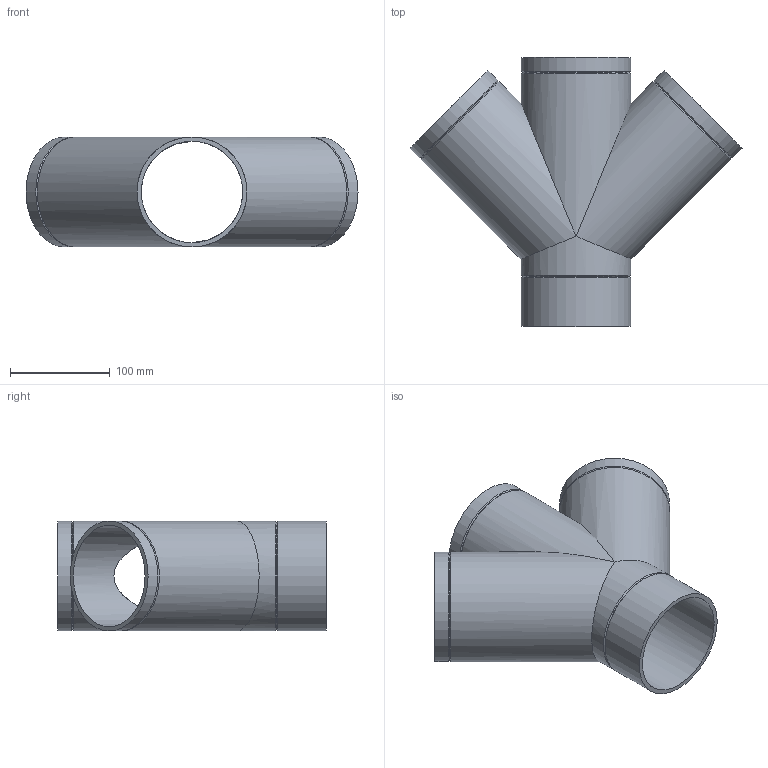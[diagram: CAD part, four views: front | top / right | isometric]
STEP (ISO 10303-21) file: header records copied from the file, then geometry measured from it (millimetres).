
FILE_DESCRIPTION(/* description */ (''),/* implementation_level */ '2;1');
FILE_NAME(/* name */ 'Z:\Geberit\Export\NewStep\367235.stp',/* time_stamp */ '2014-04-02T07:56:15+02:00',/* author */ ('nelson'),/* organization */ (''),/* preprocessor_version */ 'ST-DEVELOPER v15.2',/* originating_system */ 'Autodesk Inventor 2014',/* authorisation */ '');
FILE_SCHEMA (('AUTOMOTIVE_DESIGN { 1 0 10303 214 3 1 1 }'));
Length unit declared in the file: millimetre
Products named in the file (1): 367235
Bounding box: 333.33 x 270 x 110.4 mm (x, y, z)
Volume: 628749.9 mm3; surface area: 300042.4 mm2
Topology: 1 solids, 1 shells, 24 faces, 58 edges, 34 vertices
Faces by surface type: cylinder 12, cone 8, plane 4
Full cylindrical faces by diameter (mm): 101.8 x4, 110.4 x8
Entity records: 565 total; most frequent: DIRECTION 106, CARTESIAN_POINT 77, ORIENTED_EDGE 56, AXIS2_PLACEMENT_3D 53, EDGE_LOOP 48, EDGE_CURVE 28, FACE_BOUND 27, STYLED_ITEM 25
